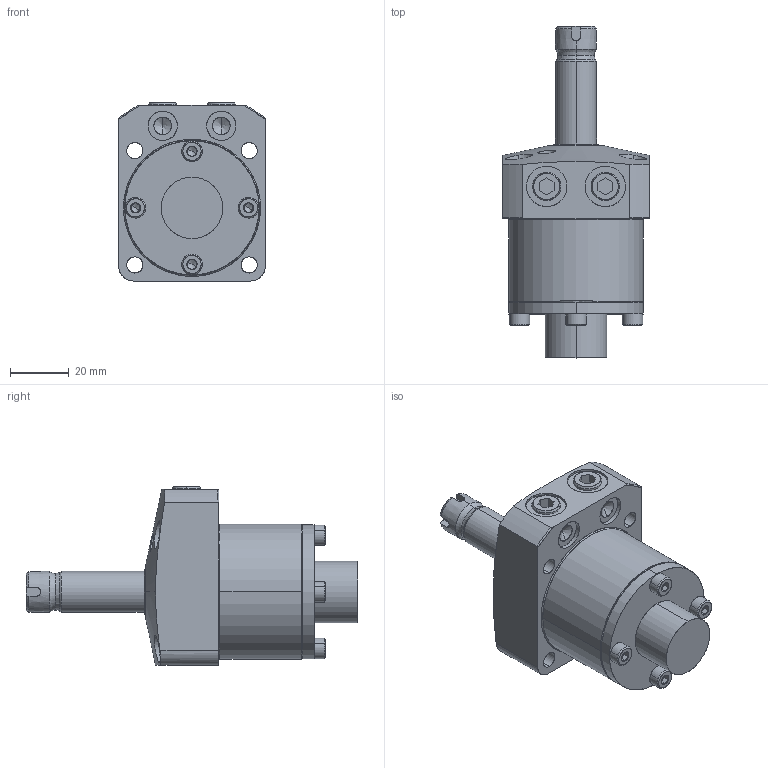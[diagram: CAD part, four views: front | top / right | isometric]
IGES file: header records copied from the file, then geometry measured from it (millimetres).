
Start section: SolidWorks IGES file using analytic representation for surfaces
Global section: file name: L:\電子カタログ-3D_IGES\WHA0320-2GR-F.igs; native system: SolidWorks 2009; preprocessor: SolidWorks 2009; author: D211; date: 100416.112817; units: millimetre
Bounding box: 50 x 113.3 x 60.8 mm (x, y, z)
Surface area: 28352.6 mm2 (no closed solid volume)
Topology: 0 solids, 0 shells, 302 faces, 4703 edges, 4686 vertices
Faces by surface type: revolution 179, bspline 123
